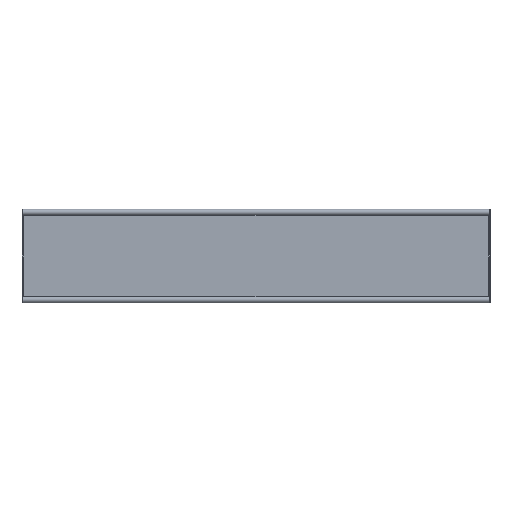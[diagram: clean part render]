
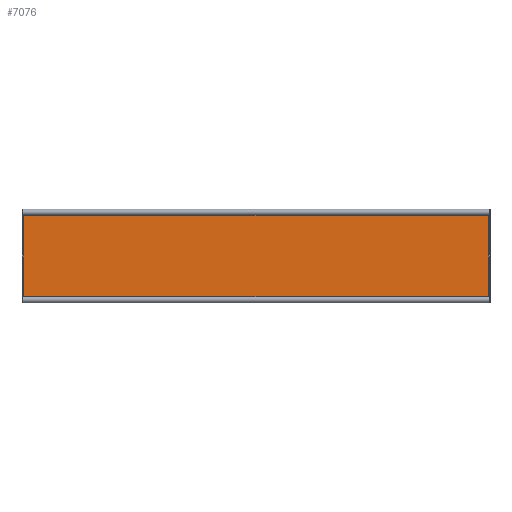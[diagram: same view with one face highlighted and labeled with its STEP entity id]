
A CAD part, front view. The second image highlights one B-rep face of the part: STEP entity #7076.
In plain terms, the highlighted planar face has unit normal (0, -1, 0).
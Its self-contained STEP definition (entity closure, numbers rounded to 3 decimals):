
#335 = ORIENTED_EDGE ( 'NONE', *, *, #629, .F. ) ;
#385 = CARTESIAN_POINT ( 'NONE',  ( -749., -2., 149. ) ) ;
#435 = DIRECTION ( 'NONE',  ( 0., 0., 1. ) ) ;
#527 = DIRECTION ( 'NONE',  ( 0., -1., 0. ) ) ;
#629 = EDGE_CURVE ( 'NONE', #4646, #8255, #7642, .T. ) ;
#970 = CARTESIAN_POINT ( 'NONE',  ( -746., -2., 145. ) ) ;
#974 = EDGE_CURVE ( 'NONE', #1215, #1127, #8316, .T. ) ;
#984 = CARTESIAN_POINT ( 'NONE',  ( -749., -2., -149. ) ) ;
#1127 = VERTEX_POINT ( 'NONE', #3242 ) ;
#1215 = VERTEX_POINT ( 'NONE', #7493 ) ;
#1252 = CARTESIAN_POINT ( 'NONE',  ( -745., -2., 146. ) ) ;
#1572 = AXIS2_PLACEMENT_3D ( 'NONE', #9891, #527, #5900 ) ;
#1652 = DIRECTION ( 'NONE',  ( 0., -1., 0. ) ) ;
#1868 = CARTESIAN_POINT ( 'NONE',  ( -746., -2., -145. ) ) ;
#1871 = CARTESIAN_POINT ( 'NONE',  ( 745., -2., -146. ) ) ;
#1969 = CARTESIAN_POINT ( 'NONE',  ( 746., -2., -149. ) ) ;
#2119 = AXIS2_PLACEMENT_3D ( 'NONE', #4606, #6951, #3095 ) ;
#2142 = AXIS2_PLACEMENT_3D ( 'NONE', #385, #3481, #6924 ) ;
#2395 = LINE ( 'NONE', #9225, #7457 ) ;
#2459 = EDGE_CURVE ( 'NONE', #8692, #4554, #7964, .T. ) ;
#2498 = EDGE_CURVE ( 'NONE', #4554, #3059, #8489, .T. ) ;
#2554 = EDGE_LOOP ( 'NONE', ( #335, #5198, #3609, #5391, #3392, #4995, #9797, #6815 ) ) ;
#2581 = VECTOR ( 'NONE', #3353, 1000. ) ;
#2709 = CARTESIAN_POINT ( 'NONE',  ( 746., -2., -145. ) ) ;
#3042 = AXIS2_PLACEMENT_3D ( 'NONE', #984, #8729, #3438 ) ;
#3059 = VERTEX_POINT ( 'NONE', #1252 ) ;
#3095 = DIRECTION ( 'NONE',  ( 0., 0., 1. ) ) ;
#3242 = CARTESIAN_POINT ( 'NONE',  ( 746., -2., 145. ) ) ;
#3285 = CARTESIAN_POINT ( 'NONE',  ( -745., -2., -146. ) ) ;
#3353 = DIRECTION ( 'NONE',  ( 1., 0., 0. ) ) ;
#3392 = ORIENTED_EDGE ( 'NONE', *, *, #2498, .F. ) ;
#3438 = DIRECTION ( 'NONE',  ( 0., 0., 1. ) ) ;
#3481 = DIRECTION ( 'NONE',  ( 0., -1., 0. ) ) ;
#3557 = DIRECTION ( 'NONE',  ( 0., 0., 1. ) ) ;
#3609 = ORIENTED_EDGE ( 'NONE', *, *, #974, .F. ) ;
#3919 = AXIS2_PLACEMENT_3D ( 'NONE', #6987, #1652, #7795 ) ;
#4047 = CARTESIAN_POINT ( 'NONE',  ( -746., -2., -149. ) ) ;
#4141 = PLANE ( 'NONE',  #3042 ) ;
#4554 = VERTEX_POINT ( 'NONE', #970 ) ;
#4606 = CARTESIAN_POINT ( 'NONE',  ( 749., -2., -149. ) ) ;
#4646 = VERTEX_POINT ( 'NONE', #2709 ) ;
#4831 = EDGE_CURVE ( 'NONE', #4646, #1127, #8900, .T. ) ;
#4995 = ORIENTED_EDGE ( 'NONE', *, *, #2459, .F. ) ;
#5198 = ORIENTED_EDGE ( 'NONE', *, *, #4831, .T. ) ;
#5332 = EDGE_CURVE ( 'NONE', #3059, #1215, #2395, .T. ) ;
#5391 = ORIENTED_EDGE ( 'NONE', *, *, #5332, .F. ) ;
#5615 = CIRCLE ( 'NONE', #1572, 5. ) ;
#5900 = DIRECTION ( 'NONE',  ( 0., 0., 1. ) ) ;
#6092 = DIRECTION ( 'NONE',  ( 1., 0., 0. ) ) ;
#6339 = VECTOR ( 'NONE', #3557, 1000. ) ;
#6501 = LINE ( 'NONE', #8688, #2581 ) ;
#6686 = EDGE_CURVE ( 'NONE', #7694, #8692, #5615, .T. ) ;
#6815 = ORIENTED_EDGE ( 'NONE', *, *, #9719, .T. ) ;
#6924 = DIRECTION ( 'NONE',  ( 0., 0., 1. ) ) ;
#6951 = DIRECTION ( 'NONE',  ( 0., -1., 0. ) ) ;
#6987 = CARTESIAN_POINT ( 'NONE',  ( 749., -2., 149. ) ) ;
#7076 = ADVANCED_FACE ( 'NONE', ( #9606 ), #4141, .F. ) ;
#7457 = VECTOR ( 'NONE', #6092, 1000. ) ;
#7493 = CARTESIAN_POINT ( 'NONE',  ( 745., -2., 146. ) ) ;
#7642 = CIRCLE ( 'NONE', #2119, 5. ) ;
#7663 = VECTOR ( 'NONE', #435, 1000. ) ;
#7694 = VERTEX_POINT ( 'NONE', #3285 ) ;
#7795 = DIRECTION ( 'NONE',  ( 0., 0., 1. ) ) ;
#7964 = LINE ( 'NONE', #4047, #7663 ) ;
#8255 = VERTEX_POINT ( 'NONE', #1871 ) ;
#8316 = CIRCLE ( 'NONE', #3919, 5. ) ;
#8489 = CIRCLE ( 'NONE', #2142, 5. ) ;
#8688 = CARTESIAN_POINT ( 'NONE',  ( -749., -2., -146. ) ) ;
#8692 = VERTEX_POINT ( 'NONE', #1868 ) ;
#8729 = DIRECTION ( 'NONE',  ( 0., 1., 0. ) ) ;
#8900 = LINE ( 'NONE', #1969, #6339 ) ;
#9225 = CARTESIAN_POINT ( 'NONE',  ( -749., -2., 146. ) ) ;
#9606 = FACE_OUTER_BOUND ( 'NONE', #2554, .T. ) ;
#9719 = EDGE_CURVE ( 'NONE', #7694, #8255, #6501, .T. ) ;
#9797 = ORIENTED_EDGE ( 'NONE', *, *, #6686, .F. ) ;
#9891 = CARTESIAN_POINT ( 'NONE',  ( -749., -2., -149. ) ) ;
